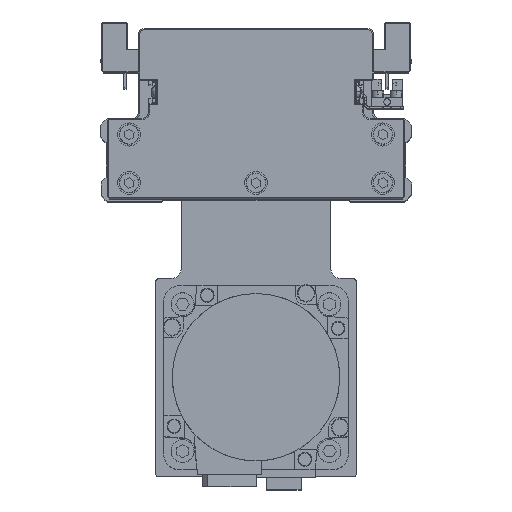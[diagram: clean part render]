
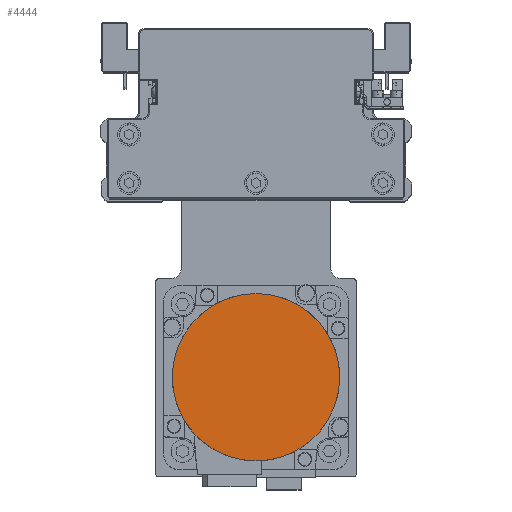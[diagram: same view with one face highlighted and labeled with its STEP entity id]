
A CAD part, top view. The second image highlights one B-rep face of the part: STEP entity #4444.
In plain terms, the highlighted planar face has unit normal (0, 0, 1) as drawn and (0, 0, -1) by its records, which use the part's own axes.
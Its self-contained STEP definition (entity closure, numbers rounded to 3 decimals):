
#748 = VERTEX_POINT ( 'NONE', #17169 ) ;
#1247 = CARTESIAN_POINT ( 'NONE',  ( 0., 0., -122.2 ) ) ;
#3221 = EDGE_CURVE ( 'NONE', #11944, #748, #34731, .T. ) ;
#3545 = AXIS2_PLACEMENT_3D ( 'NONE', #6298, #18364, #30419 ) ;
#4444 = ADVANCED_FACE ( 'NONE', ( #9766 ), #21813, .F. ) ;
#6298 = CARTESIAN_POINT ( 'NONE',  ( 0., 0., -122.2 ) ) ;
#6785 = DIRECTION ( 'NONE',  ( 0., 0., 1. ) ) ;
#9639 = CARTESIAN_POINT ( 'NONE',  ( 0., -36.3, -122.2 ) ) ;
#9766 = FACE_OUTER_BOUND ( 'NONE', #38592, .T. ) ;
#11944 = VERTEX_POINT ( 'NONE', #9639 ) ;
#13309 = DIRECTION ( 'NONE',  ( 0., 0., 1. ) ) ;
#15461 = ORIENTED_EDGE ( 'NONE', *, *, #17092, .F. ) ;
#17092 = EDGE_CURVE ( 'NONE', #748, #11944, #20622, .T. ) ;
#17169 = CARTESIAN_POINT ( 'NONE',  ( 0., 36.3, -122.2 ) ) ;
#18364 = DIRECTION ( 'NONE',  ( 0., 0., 1. ) ) ;
#18861 = DIRECTION ( 'NONE',  ( 1., 0., 0. ) ) ;
#20622 = CIRCLE ( 'NONE', #3545, 36.3 ) ;
#21292 = AXIS2_PLACEMENT_3D ( 'NONE', #1247, #13309, #25378 ) ;
#21813 = PLANE ( 'NONE',  #29596 ) ;
#25378 = DIRECTION ( 'NONE',  ( 0., -1., 0. ) ) ;
#29596 = AXIS2_PLACEMENT_3D ( 'NONE', #33868, #6785, #18861 ) ;
#30419 = DIRECTION ( 'NONE',  ( 0., 1., 0. ) ) ;
#33868 = CARTESIAN_POINT ( 'NONE',  ( 0., 0., -122.2 ) ) ;
#34731 = CIRCLE ( 'NONE', #21292, 36.3 ) ;
#38592 = EDGE_LOOP ( 'NONE', ( #15461, #38697 ) ) ;
#38697 = ORIENTED_EDGE ( 'NONE', *, *, #3221, .F. ) ;
